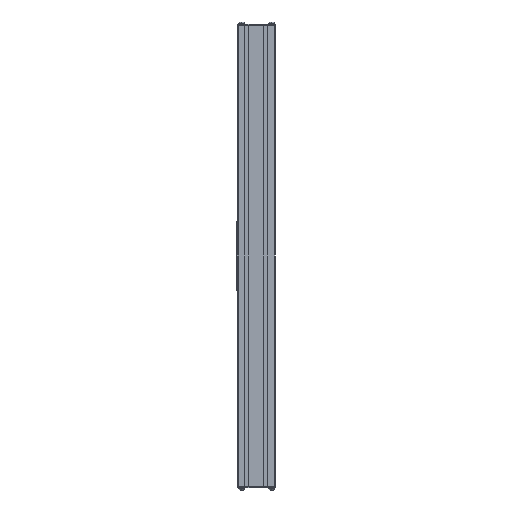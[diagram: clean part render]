
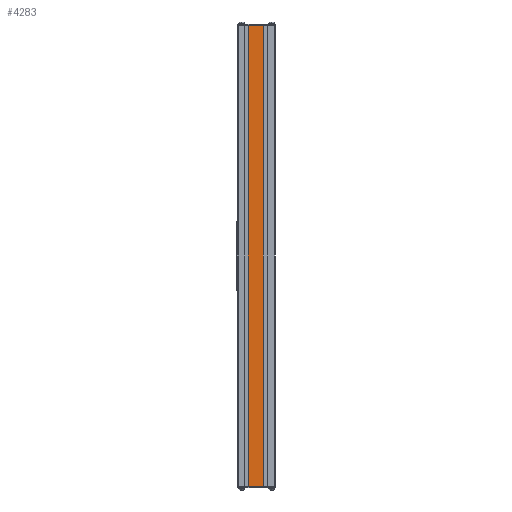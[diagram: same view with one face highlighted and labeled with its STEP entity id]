
A CAD part, left-side view. The second image highlights one B-rep face of the part: STEP entity #4283.
In plain terms, the highlighted planar face has unit normal (-1, 0, 0).
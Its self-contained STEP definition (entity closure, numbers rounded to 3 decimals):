
#152 = VERTEX_POINT ( 'NONE', #7955 ) ;
#270 = CARTESIAN_POINT ( 'NONE',  ( -40., 57.626, -491.5 ) ) ;
#564 = DIRECTION ( 'NONE',  ( 1., 0., 0. ) ) ;
#633 = VERTEX_POINT ( 'NONE', #8126 ) ;
#698 = CARTESIAN_POINT ( 'NONE',  ( -40., 26.05, 491.5 ) ) ;
#712 = AXIS2_PLACEMENT_3D ( 'NONE', #1412, #564, #3665 ) ;
#1265 = DIRECTION ( 'NONE',  ( 0., 0., -1. ) ) ;
#1412 = CARTESIAN_POINT ( 'NONE',  ( -40., 26.05, 491.5 ) ) ;
#1413 = EDGE_CURVE ( 'NONE', #152, #6671, #8798, .T. ) ;
#1577 = LINE ( 'NONE', #2857, #1698 ) ;
#1698 = VECTOR ( 'NONE', #6070, 1000. ) ;
#1906 = CARTESIAN_POINT ( 'NONE',  ( -40., 26.05, 491.5 ) ) ;
#2652 = LINE ( 'NONE', #1906, #9098 ) ;
#2767 = EDGE_CURVE ( 'NONE', #6671, #633, #2652, .T. ) ;
#2857 = CARTESIAN_POINT ( 'NONE',  ( -40., 26.05, -491.5 ) ) ;
#3665 = DIRECTION ( 'NONE',  ( 0., 0., -1. ) ) ;
#3685 = VERTEX_POINT ( 'NONE', #270 ) ;
#3784 = EDGE_CURVE ( 'NONE', #3685, #633, #1577, .T. ) ;
#4133 = LINE ( 'NONE', #9658, #4573 ) ;
#4148 = ORIENTED_EDGE ( 'NONE', *, *, #3784, .T. ) ;
#4283 = ADVANCED_FACE ( 'NONE', ( #5232 ), #8072, .F. ) ;
#4573 = VECTOR ( 'NONE', #1265, 1000. ) ;
#5136 = CARTESIAN_POINT ( 'NONE',  ( -40., 26.05, 491.5 ) ) ;
#5232 = FACE_OUTER_BOUND ( 'NONE', #7545, .T. ) ;
#5581 = ORIENTED_EDGE ( 'NONE', *, *, #2767, .F. ) ;
#6070 = DIRECTION ( 'NONE',  ( 0., -1., 0. ) ) ;
#6647 = EDGE_CURVE ( 'NONE', #152, #3685, #4133, .T. ) ;
#6671 = VERTEX_POINT ( 'NONE', #5136 ) ;
#6680 = DIRECTION ( 'NONE',  ( 0., -1., 0. ) ) ;
#7398 = ORIENTED_EDGE ( 'NONE', *, *, #6647, .T. ) ;
#7545 = EDGE_LOOP ( 'NONE', ( #4148, #5581, #8158, #7398 ) ) ;
#7955 = CARTESIAN_POINT ( 'NONE',  ( -40., 57.626, 491.5 ) ) ;
#8072 = PLANE ( 'NONE',  #712 ) ;
#8126 = CARTESIAN_POINT ( 'NONE',  ( -40., 26.05, -491.5 ) ) ;
#8158 = ORIENTED_EDGE ( 'NONE', *, *, #1413, .F. ) ;
#8798 = LINE ( 'NONE', #698, #9400 ) ;
#9098 = VECTOR ( 'NONE', #9655, 1000. ) ;
#9400 = VECTOR ( 'NONE', #6680, 1000. ) ;
#9655 = DIRECTION ( 'NONE',  ( 0., 0., -1. ) ) ;
#9658 = CARTESIAN_POINT ( 'NONE',  ( -40., 57.626, 491.5 ) ) ;
